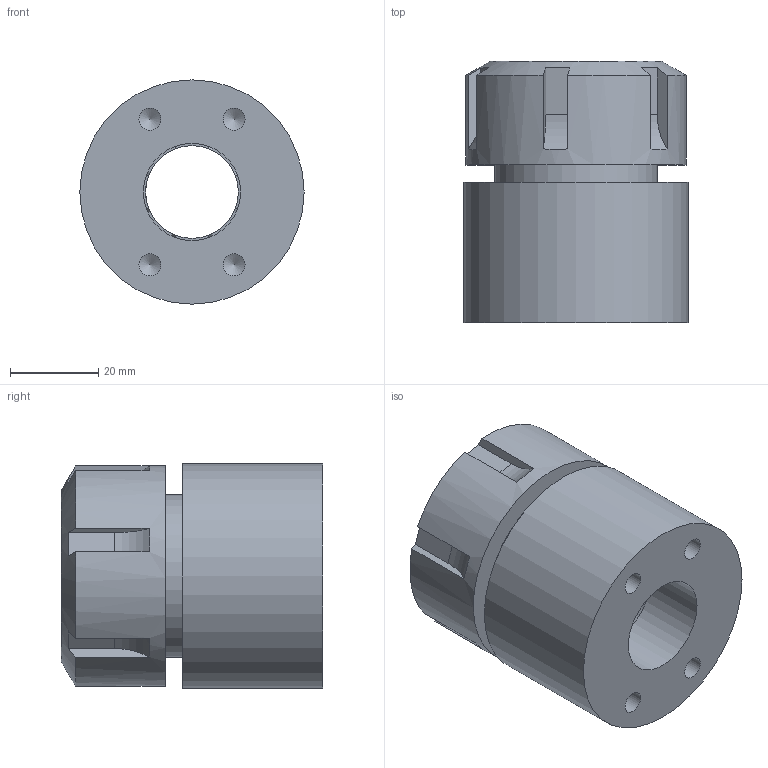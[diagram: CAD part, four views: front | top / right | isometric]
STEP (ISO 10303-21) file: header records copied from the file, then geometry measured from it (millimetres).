
FILE_DESCRIPTION (( 'STEP AP214' ), '1' );
FILE_NAME ('CERX-32_WEBSITE.step', '2025-08-11T14:26:52', ( '' ), ( '' ), 'SwSTEP 2.0', 'SolidWorks 2025', '' );
FILE_SCHEMA (( 'AUTOMOTIVE_DESIGN' ));
Length unit declared in the file: millimetre
Products named in the file (4): CERX-32_WEBSITE; CERX32-2_WEBSITE; CERX32-3_WEBSITE; CERX32-1_WEBSITE
Assembly tree (3 placements, depth 2):
  CERX-32_WEBSITE
    CERX32-1_WEBSITE
    CERX32-3_WEBSITE
    CERX32-2_WEBSITE
Bounding box: 50.8 x 59.2 x 50.8 mm (x, y, z)
Volume: 88053 mm3; surface area: 36390.2 mm2
Topology: 3 solids, 3 shells, 200 faces, 567 edges, 377 vertices
Faces by surface type: plane 108, cylinder 69, cone 23
Full cylindrical faces by diameter (mm): 5 x4, 21 x1, 22 x1, 27.1 x1, 29 x1, 33.81 x1, 36.83 x1, 40 x1, 40.64 x1, 42 x1, 50 x1, 50.8 x1
Entity records: 6700 total; most frequent: CARTESIAN_POINT 1535, ORIENTED_EDGE 1074, DIRECTION 1018, EDGE_CURVE 537, AXIS2_PLACEMENT_3D 398, VERTEX_POINT 369, EDGE_LOOP 232, LINE 222
